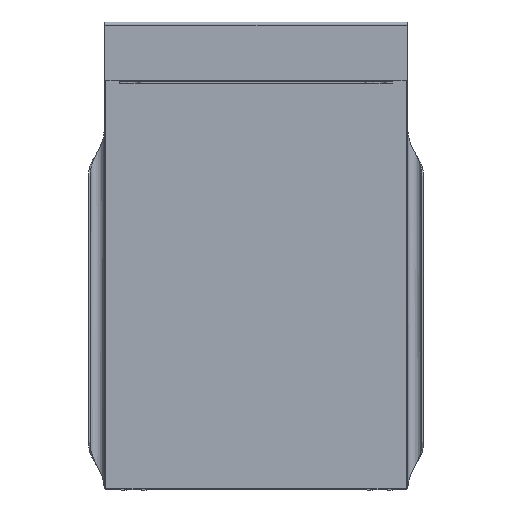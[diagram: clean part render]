
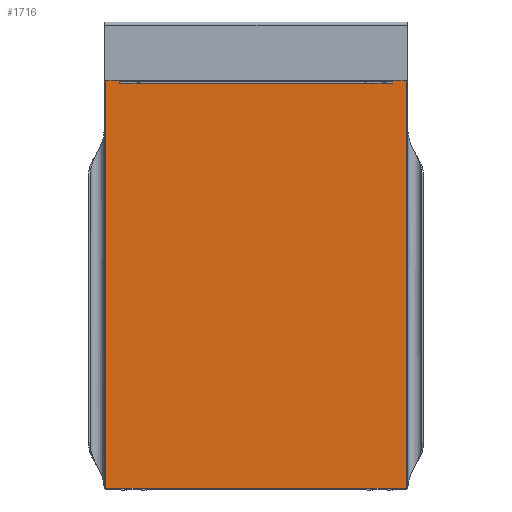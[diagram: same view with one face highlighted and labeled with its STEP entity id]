
A CAD part, front view. The second image highlights one B-rep face of the part: STEP entity #1716.
In plain terms, the highlighted planar face has unit normal (0, -1, 0).
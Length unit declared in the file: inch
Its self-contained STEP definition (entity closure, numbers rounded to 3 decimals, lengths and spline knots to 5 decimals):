
#1616=CARTESIAN_POINT('Vertex',(5.5,-0.1875,7.5)) ;
#1619=CARTESIAN_POINT('Line Origine',(5.5,-0.1875,0.)) ;
#1623=CARTESIAN_POINT('Vertex',(5.5,-0.1875,-7.5)) ;
#1678=CARTESIAN_POINT('Vertex',(-5.5,-0.1875,7.5)) ;
#1681=CARTESIAN_POINT('Line Origine',(0.,-0.1875,7.5)) ;
#1693=CARTESIAN_POINT('Axis2P3D Location',(0.,-0.1875,0.)) ;
#1698=CARTESIAN_POINT('Line Origine',(-5.5,-0.1875,0.)) ;
#1702=CARTESIAN_POINT('Vertex',(-5.5,-0.1875,-7.5)) ;
#1705=CARTESIAN_POINT('Line Origine',(0.,-0.1875,-7.5)) ;
#1620=DIRECTION('Vector Direction',(0.,0.,-1.)) ;
#1682=DIRECTION('Vector Direction',(1.,0.,0.)) ;
#1694=DIRECTION('Axis2P3D Direction',(0.,-1.,0.)) ;
#1695=DIRECTION('Axis2P3D XDirection',(0.,-0.,-1.)) ;
#1699=DIRECTION('Vector Direction',(0.,0.,1.)) ;
#1706=DIRECTION('Vector Direction',(-1.,0.,0.)) ;
#1696=AXIS2_PLACEMENT_3D('Plane Axis2P3D',#1693,#1694,#1695) ;
#1711=ORIENTED_EDGE('',*,*,#1625,.F.) ;
#1712=ORIENTED_EDGE('',*,*,#1685,.F.) ;
#1713=ORIENTED_EDGE('',*,*,#1704,.F.) ;
#1714=ORIENTED_EDGE('',*,*,#1709,.F.) ;
#1621=VECTOR('Line Direction',#1620,0.03937) ;
#1683=VECTOR('Line Direction',#1682,0.03937) ;
#1700=VECTOR('Line Direction',#1699,0.03937) ;
#1707=VECTOR('Line Direction',#1706,0.03937) ;
#1716=ADVANCED_FACE('Boss-Extrude1',(#1715),#1697,.T.) ;
#1625=EDGE_CURVE('',#1617,#1624,#1622,.T.) ;
#1685=EDGE_CURVE('',#1679,#1617,#1684,.T.) ;
#1704=EDGE_CURVE('',#1703,#1679,#1701,.T.) ;
#1709=EDGE_CURVE('',#1624,#1703,#1708,.T.) ;
#1710=EDGE_LOOP('',(#1711,#1712,#1713,#1714)) ;
#1715=FACE_OUTER_BOUND('',#1710,.T.) ;
#1622=LINE('Line',#1619,#1621) ;
#1684=LINE('Line',#1681,#1683) ;
#1701=LINE('Line',#1698,#1700) ;
#1708=LINE('Line',#1705,#1707) ;
#1697=PLANE('',#1696) ;
#1617=VERTEX_POINT('',#1616) ;
#1624=VERTEX_POINT('',#1623) ;
#1679=VERTEX_POINT('',#1678) ;
#1703=VERTEX_POINT('',#1702) ;
